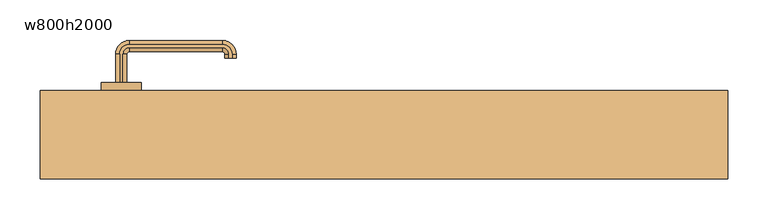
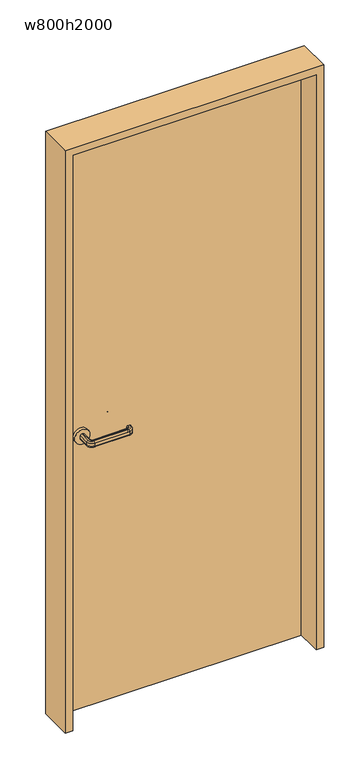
"""IFC4 building model written with IfcOpenShell, lengths in millimetres: door geometry, 片開き : w800h2000."""

from ifc_helpers import new_model, si_unit, point, frame, frame_2d, origin, origin_with_axes, place, context, project, spatial, polyline, circle_curve, ellipse_curve, trimmed, segment, composite_curve, outline, extrude, source, transform, mapped, element, save
from ifc_brep_helpers import plane_surface, cylinder_surface, revolved_surface, advanced_brep


def w800h2000_ceb0a9b1(model_context):
    return source(origin(), model_context, "Body", "SolidModel", [
        advanced_brep(
        [(-327.0, 65.0, 960.0), (-332.0, 65.0, 955.0), (-332.0, 65.0, 945.0477623), (-327.0, 65.0, 940.0477623), (-323.0, 65.0, 940.0477623), (-318.0, 65.0, 945.0477623), (-318.0, 65.0, 955.0), (-323.0, 65.0, 960.0), (-327.0, 100.0, 960.0), (-332.0, 100.0, 955.0), (-332.0, 100.0, 945.0477623), (-327.0, 100.0, 940.0477623), (-315.0, 112.0, 940.0477623), (-200.0, 112.0, 940.0477623), (-188.0, 100.0, 940.0477623), (-188.0, 95.0, 940.0477623), (-192.0, 95.0, 940.0477623), (-192.0, 100.0, 940.0477623), (-200.0, 108.0, 940.0477623), (-315.0, 108.0, 940.0477623), (-323.0, 100.0, 940.0477623), (-318.0, 100.0, 945.0477623), (-318.0, 100.0, 955.0), (-323.0, 100.0, 960.0), (-315.0, 108.0, 960.0), (-200.0, 108.0, 960.0), (-192.0, 100.0, 960.0), (-192.0, 95.0, 960.0), (-188.0, 95.0, 960.0), (-188.0, 100.0, 960.0), (-200.0, 112.0, 960.0), (-315.0, 112.0, 960.0), (-315.0, 117.0, 955.0), (-315.0, 117.0, 945.0477623), (-315.0, 103.0, 945.0477623), (-315.0, 103.0, 955.0), (-200.0, 117.0, 955.0), (-200.0, 117.0, 945.0477623), (-200.0, 103.0, 945.0477623), (-200.0, 103.0, 955.0), (-183.0, 100.0, 955.0), (-183.0, 100.0, 945.0477623), (-197.0, 100.0, 945.0477623), (-197.0, 100.0, 955.0), (-197.0, 95.0, 955.0), (-197.0, 95.0, 945.0477623), (-183.0, 95.0, 945.0477623), (-183.0, 95.0, 955.0)],
        [
            (0, 1, circle_curve(frame((-327.0, 65.0, 955.0), z_axis=(0.0, -1.0, 0.0), x_axis=(-1.0, 0.0, 0.0)), 5.0)),
            (1, 2),
            (2, 3, circle_curve(frame((-327.0, 65.0, 945.0477623), z_axis=(0.0, -1.0, 0.0), x_axis=(-1.0, 0.0, 0.0)), 5.0)),
            (3, 4),
            (4, 5, circle_curve(frame((-323.0, 65.0, 945.0477623), z_axis=(0.0, -1.0, 0.0), x_axis=(-1.0, 0.0, 0.0)), 5.0)),
            (5, 6),
            (6, 7, circle_curve(frame((-323.0, 65.0, 955.0), z_axis=(0.0, -1.0, 0.0), x_axis=(-1.0, 0.0, 0.0)), 5.0)),
            (7, 0),
            (0, 8),
            (8, 9, circle_curve(frame((-327.0, 100.0, 955.0), z_axis=(0.0, -1.0, 0.0), x_axis=(-1.0, 0.0, 0.0)), 5.0)),
            (9, 1),
            (9, 10),
            (10, 2),
            (10, 11, circle_curve(frame((-327.0, 100.0, 945.0477623), z_axis=(0.0, -1.0, 0.0), x_axis=(-1.0, 0.0, 0.0)), 5.0)),
            (11, 3),
            (11, 12, circle_curve(frame((-315.0, 100.0, 940.0477623), z_axis=(0.0, 0.0, -1.0), x_axis=(-1.0, 0.0, 0.0)), 12.0)),
            (12, 13),
            (13, 14, circle_curve(frame((-200.0, 100.0, 940.0477623), z_axis=(0.0, 0.0, -1.0), x_axis=(0.0, 1.0, 0.0)), 12.0)),
            (14, 15),
            (15, 16),
            (16, 17),
            (17, 18, circle_curve(frame((-200.0, 100.0, 940.0477623), z_axis=(0.0, 0.0, 1.0), x_axis=(0.0, 1.0, 0.0)), 8.0)),
            (18, 19),
            (19, 20, circle_curve(frame((-315.0, 100.0, 940.0477623), z_axis=(0.0, 0.0, 1.0), x_axis=(-1.0, 0.0, 0.0)), 8.0)),
            (20, 4),
            (20, 21, circle_curve(frame((-323.0, 100.0, 945.0477623), z_axis=(0.0, -1.0, 0.0), x_axis=(-1.0, 0.0, 0.0)), 5.0)),
            (21, 5),
            (21, 22),
            (22, 6),
            (22, 23, circle_curve(frame((-323.0, 100.0, 955.0), z_axis=(0.0, -1.0, 0.0), x_axis=(-1.0, 0.0, 0.0)), 5.0)),
            (23, 7),
            (23, 24, circle_curve(frame((-315.0, 100.0, 960.0), z_axis=(0.0, 0.0, -1.0), x_axis=(-1.0, 0.0, 0.0)), 8.0)),
            (24, 25),
            (25, 26, circle_curve(frame((-200.0, 100.0, 960.0), z_axis=(0.0, 0.0, -1.0), x_axis=(0.0, 1.0, 0.0)), 8.0)),
            (26, 27),
            (27, 28),
            (28, 29),
            (29, 30, circle_curve(frame((-200.0, 100.0, 960.0), z_axis=(0.0, 0.0, 1.0), x_axis=(0.0, 1.0, 0.0)), 12.0)),
            (30, 31),
            (31, 8, circle_curve(frame((-315.0, 100.0, 960.0), z_axis=(0.0, 0.0, 1.0), x_axis=(-1.0, 0.0, 0.0)), 12.0)),
            (32, 9, circle_curve(frame((-315.0, 100.0, 955.0), z_axis=(0.0, 0.0, 1.0), x_axis=(-1.0, 0.0, 0.0)), 17.0)),
            (31, 32, circle_curve(frame((-315.0, 112.0, 955.0), z_axis=(-1.0, 0.0, 0.0), x_axis=(0.0, 1.0, 0.0)), 5.0)),
            (33, 10, circle_curve(frame((-315.0, 100.0, 945.0477623), z_axis=(0.0, 0.0, 1.0), x_axis=(-1.0, 0.0, 0.0)), 17.0)),
            (32, 33),
            (33, 12, circle_curve(frame((-315.0, 112.0, 945.0477623), z_axis=(-1.0, 0.0, 0.0), x_axis=(0.0, 1.0, 0.0)), 5.0)),
            (34, 21, circle_curve(frame((-315.0, 100.0, 945.0477623), z_axis=(0.0, 0.0, 1.0), x_axis=(-1.0, 0.0, 0.0)), 3.0)),
            (19, 34, circle_curve(frame((-315.0, 108.0, 945.0477623), z_axis=(-1.0, 0.0, 0.0), x_axis=(0.0, 1.0, 0.0)), 5.0)),
            (35, 22, circle_curve(frame((-315.0, 100.0, 955.0), z_axis=(0.0, 0.0, 1.0), x_axis=(-1.0, 0.0, 0.0)), 3.0)),
            (34, 35),
            (35, 24, circle_curve(frame((-315.0, 108.0, 955.0), z_axis=(-1.0, 0.0, 0.0), x_axis=(0.0, 1.0, 0.0)), 5.0)),
            (30, 36, circle_curve(frame((-200.0, 112.0, 955.0), z_axis=(-1.0, 0.0, 0.0), x_axis=(0.0, 1.0, 0.0)), 5.0)),
            (36, 32),
            (36, 37),
            (37, 33),
            (37, 13, circle_curve(frame((-200.0, 112.0, 945.0477623), z_axis=(-1.0, 0.0, 0.0), x_axis=(0.0, 1.0, 0.0)), 5.0)),
            (18, 38, circle_curve(frame((-200.0, 108.0, 945.0477623), z_axis=(-1.0, 0.0, 0.0), x_axis=(0.0, 1.0, 0.0)), 5.0)),
            (38, 34),
            (38, 39),
            (39, 35),
            (39, 25, circle_curve(frame((-200.0, 108.0, 955.0), z_axis=(-1.0, 0.0, 0.0), x_axis=(0.0, 1.0, 0.0)), 5.0)),
            (40, 36, circle_curve(frame((-200.0, 100.0, 955.0), z_axis=(0.0, 0.0, 1.0), x_axis=(0.0, 1.0, 0.0)), 17.0)),
            (29, 40, circle_curve(frame((-188.0, 100.0, 955.0), z_axis=(0.0, 1.0, 0.0), x_axis=(1.0, 0.0, 0.0)), 5.0)),
            (41, 37, circle_curve(frame((-200.0, 100.0, 945.0477623), z_axis=(0.0, 0.0, 1.0), x_axis=(0.0, 1.0, 0.0)), 17.0)),
            (40, 41),
            (41, 14, circle_curve(frame((-188.0, 100.0, 945.0477623), z_axis=(0.0, 1.0, 0.0), x_axis=(1.0, 0.0, 0.0)), 5.0)),
            (42, 38, circle_curve(frame((-200.0, 100.0, 945.0477623), z_axis=(0.0, 0.0, 1.0), x_axis=(0.0, 1.0, 0.0)), 3.0)),
            (17, 42, circle_curve(frame((-192.0, 100.0, 945.0477623), z_axis=(0.0, 1.0, 0.0), x_axis=(1.0, 0.0, 0.0)), 5.0)),
            (43, 39, circle_curve(frame((-200.0, 100.0, 955.0), z_axis=(0.0, 0.0, 1.0), x_axis=(0.0, 1.0, 0.0)), 3.0)),
            (42, 43),
            (43, 26, circle_curve(frame((-192.0, 100.0, 955.0), z_axis=(0.0, 1.0, 0.0), x_axis=(1.0, 0.0, 0.0)), 5.0)),
            (27, 44, circle_curve(frame((-192.0, 95.0, 955.0), z_axis=(0.0, -1.0, 0.0), x_axis=(1.0, 0.0, 0.0)), 5.0)),
            (44, 45),
            (45, 16, circle_curve(frame((-192.0, 95.0, 945.0477623), z_axis=(0.0, -1.0, 0.0), x_axis=(1.0, 0.0, 0.0)), 5.0)),
            (15, 46, circle_curve(frame((-188.0, 95.0, 945.0477623), z_axis=(0.0, -1.0, 0.0), x_axis=(1.0, 0.0, 0.0)), 5.0)),
            (46, 47),
            (47, 28, circle_curve(frame((-188.0, 95.0, 955.0), z_axis=(0.0, -1.0, 0.0), x_axis=(1.0, 0.0, 0.0)), 5.0)),
            (47, 40),
            (46, 41),
            (45, 42),
            (44, 43),
        ],
        [
            plane_surface(frame((-335.198039, 65.0, 950.0), z_axis=(0.0, -1.0, 0.0), x_axis=(0.0, 0.0, 1.0))),
            cylinder_surface(frame((-327.0, 65.0, 955.0), z_axis=(0.0, -1.0, 0.0), x_axis=(-1.0, 0.0, 0.0)), 5.0),
            plane_surface(frame((-332.0, 65.0, 955.0), z_axis=(-1.0, 0.0, 0.0), x_axis=(0.0, 1.0, 0.0))),
            cylinder_surface(frame((-327.0, 65.0, 945.0477623), z_axis=(0.0, -1.0, 0.0), x_axis=(-1.0, 0.0, 0.0)), 5.0),
            plane_surface(frame((-327.0, 65.0, 940.0477623), z_axis=(0.0, 0.0, -1.0), x_axis=(0.0, 1.0, 0.0))),
            cylinder_surface(frame((-323.0, 65.0, 945.0477623), z_axis=(0.0, -1.0, 0.0), x_axis=(-1.0, 0.0, 0.0)), 5.0),
            plane_surface(frame((-318.0, 65.0, 945.0477623), z_axis=(1.0, 0.0, 0.0), x_axis=(0.0, 1.0, 0.0))),
            cylinder_surface(frame((-323.0, 65.0, 955.0), z_axis=(0.0, -1.0, 0.0), x_axis=(-1.0, 0.0, 0.0)), 5.0),
            plane_surface(frame((-323.0, 65.0, 960.0), z_axis=(0.0, 0.0, 1.0), x_axis=(0.0, 1.0, 0.0))),
            revolved_surface(trimmed(ellipse_curve(frame((-327.0, 100.0, 955.0), z_axis=(0.0, -1.0, 0.0), x_axis=(-1.0, 0.0, 0.0)), 5.0, 5.0), [point((-327.0, 100.0, 960.0))], [point((-332.0, 100.0, 955.0))], True, "CARTESIAN"), (-315.0, 100.0, 950.0), (0.0, 0.0, -1.0)),
            cylinder_surface(frame((-315.0, 100.0, 950.0), z_axis=(0.0, 0.0, -1.0), x_axis=(-1.0, 0.0, 0.0)), 17.0),
            revolved_surface(trimmed(ellipse_curve(frame((-327.0, 100.0, 945.0477623), z_axis=(0.0, -1.0, 0.0), x_axis=(-1.0, 0.0, 0.0)), 5.0, 5.0), [point((-332.0, 100.0, 945.0477623))], [point((-327.0, 100.0, 940.0477623))], True, "CARTESIAN"), (-315.0, 100.0, 950.0), (0.0, 0.0, -1.0)),
            revolved_surface(trimmed(ellipse_curve(frame((-323.0, 100.0, 945.0477623), z_axis=(0.0, -1.0, 0.0), x_axis=(-1.0, 0.0, 0.0)), 5.0, 5.0), [point((-323.0, 100.0, 940.0477623))], [point((-318.0, 100.0, 945.0477623))], True, "CARTESIAN"), (-315.0, 100.0, 950.0), (0.0, 0.0, -1.0)),
            revolved_surface(polyline([(-318.0, 100.0, 945.0477623), (-318.0, 100.0, 955.0)]), (-315.0, 100.0, 950.0), (0.0, 0.0, -1.0)),
            revolved_surface(trimmed(ellipse_curve(frame((-323.0, 100.0, 955.0), z_axis=(0.0, -1.0, 0.0), x_axis=(-1.0, 0.0, 0.0)), 5.0, 5.0), [point((-318.0, 100.0, 955.0))], [point((-323.0, 100.0, 960.0))], True, "CARTESIAN"), (-315.0, 100.0, 950.0), (0.0, 0.0, -1.0)),
            cylinder_surface(frame((-315.0, 112.0, 955.0), z_axis=(-1.0, 0.0, 0.0), x_axis=(0.0, 1.0, 0.0)), 5.0),
            plane_surface(frame((-315.0, 117.0, 955.0), z_axis=(0.0, 1.0, 0.0), x_axis=(1.0, 0.0, 0.0))),
            cylinder_surface(frame((-315.0, 112.0, 945.0477623), z_axis=(-1.0, 0.0, 0.0), x_axis=(0.0, 1.0, 0.0)), 5.0),
            cylinder_surface(frame((-315.0, 108.0, 945.0477623), z_axis=(-1.0, 0.0, 0.0), x_axis=(0.0, 1.0, 0.0)), 5.0),
            plane_surface(frame((-315.0, 103.0, 945.0477623), z_axis=(0.0, -1.0, 0.0), x_axis=(1.0, 0.0, 0.0))),
            cylinder_surface(frame((-315.0, 108.0, 955.0), z_axis=(-1.0, 0.0, 0.0), x_axis=(0.0, 1.0, 0.0)), 5.0),
            revolved_surface(trimmed(ellipse_curve(frame((-200.0, 112.0, 955.0), z_axis=(-1.0, 0.0, 0.0), x_axis=(0.0, 1.0, 0.0)), 5.0, 5.0), [point((-200.0, 112.0, 960.0))], [point((-200.0, 117.0, 955.0))], True, "CARTESIAN"), (-200.0, 100.0, 950.0), (0.0, 0.0, -1.0)),
            cylinder_surface(frame((-200.0, 100.0, 950.0), z_axis=(0.0, 0.0, -1.0), x_axis=(0.0, 1.0, 0.0)), 17.0),
            revolved_surface(trimmed(ellipse_curve(frame((-200.0, 112.0, 945.0477623), z_axis=(-1.0, 0.0, 0.0), x_axis=(0.0, 1.0, 0.0)), 5.0, 5.0), [point((-200.0, 117.0, 945.0477623))], [point((-200.0, 112.0, 940.0477623))], True, "CARTESIAN"), (-200.0, 100.0, 950.0), (0.0, 0.0, -1.0)),
            revolved_surface(trimmed(ellipse_curve(frame((-200.0, 108.0, 945.0477623), z_axis=(-1.0, 0.0, 0.0), x_axis=(0.0, 1.0, 0.0)), 5.0, 5.0), [point((-200.0, 108.0, 940.0477623))], [point((-200.0, 103.0, 945.0477623))], True, "CARTESIAN"), (-200.0, 100.0, 950.0), (0.0, 0.0, -1.0)),
            revolved_surface(polyline([(-200.0, 103.0, 945.0477623), (-200.0, 103.0, 955.0)]), (-200.0, 100.0, 950.0), (0.0, 0.0, -1.0)),
            revolved_surface(trimmed(ellipse_curve(frame((-200.0, 108.0, 955.0), z_axis=(-1.0, 0.0, 0.0), x_axis=(0.0, 1.0, 0.0)), 5.0, 5.0), [point((-200.0, 103.0, 955.0))], [point((-200.0, 108.0, 960.0))], True, "CARTESIAN"), (-200.0, 100.0, 950.0), (0.0, 0.0, -1.0)),
            plane_surface(frame((-200.198039, 95.0, 950.0), z_axis=(0.0, -1.0, 0.0), x_axis=(0.0, 0.0, -1.0))),
            cylinder_surface(frame((-188.0, 100.0, 955.0), z_axis=(0.0, 1.0, 0.0), x_axis=(1.0, 0.0, 0.0)), 5.0),
            plane_surface(frame((-183.0, 100.0, 955.0), z_axis=(1.0, 0.0, 0.0), x_axis=(0.0, -1.0, 0.0))),
            cylinder_surface(frame((-188.0, 100.0, 945.0477623), z_axis=(0.0, 1.0, 0.0), x_axis=(1.0, 0.0, 0.0)), 5.0),
            cylinder_surface(frame((-192.0, 100.0, 945.0477623), z_axis=(0.0, 1.0, 0.0), x_axis=(1.0, 0.0, 0.0)), 5.0),
            plane_surface(frame((-197.0, 100.0, 945.0477623), z_axis=(-1.0, 0.0, 0.0), x_axis=(0.0, -1.0, 0.0))),
            cylinder_surface(frame((-192.0, 100.0, 955.0), z_axis=(0.0, 1.0, 0.0), x_axis=(1.0, 0.0, 0.0)), 5.0),
        ],
        [
            (0, [[1, 2, 3, 4, 5, 6, 7, 8]]),
            (1, [[-1, 9, 10, 11]]),
            (2, [[-2, -11, 12, 13]]),
            (3, [[-3, -13, 14, 15]]),
            (4, [[-4, -15, 16, 17, 18, 19, 20, 21, 22, 23, 24, 25]]),
            (5, [[-5, -25, 26, 27]]),
            (6, [[-6, -27, 28, 29]]),
            (7, [[-7, -29, 30, 31]]),
            (8, [[-8, -31, 32, 33, 34, 35, 36, 37, 38, 39, 40, -9]]),
            (9, [[41, -10, -40, 42]]),
            (10, [[43, -12, -41, 44]]),
            (11, [[-16, -14, -43, 45]]),
            (12, [[46, -26, -24, 47]]),
            (13, [[48, -28, -46, 49]]),
            (14, [[-32, -30, -48, 50]]),
            (15, [[-42, -39, 51, 52]]),
            (16, [[-44, -52, 53, 54]]),
            (17, [[-45, -54, 55, -17]]),
            (18, [[-47, -23, 56, 57]]),
            (19, [[-49, -57, 58, 59]]),
            (20, [[-50, -59, 60, -33]]),
            (21, [[61, -51, -38, 62]]),
            (22, [[63, -53, -61, 64]]),
            (23, [[-18, -55, -63, 65]]),
            (24, [[66, -56, -22, 67]]),
            (25, [[68, -58, -66, 69]]),
            (26, [[-34, -60, -68, 70]]),
            (27, [[-36, 71, 72, 73, -20, 74, 75, 76]]),
            (28, [[-62, -37, -76, 77]]),
            (29, [[-64, -77, -75, 78]]),
            (30, [[-65, -78, -74, -19]]),
            (31, [[-67, -21, -73, 79]]),
            (32, [[-69, -79, -72, 80]]),
            (33, [[-70, -80, -71, -35]]),
        ],
    ),
        advanced_brep(
        [(-323.0, 20.0, 940.0), (-327.0, 20.0, 940.0), (-332.0, 20.0, 945.0), (-332.0, 20.0, 955.0), (-327.0, 20.0, 960.0), (-323.0, 20.0, 960.0), (-318.0, 20.0, 955.0), (-318.0, 20.0, 945.0), (-323.0, -15.0, 940.0), (-315.0, -23.0, 940.0), (-200.0, -23.0, 940.0), (-192.0, -15.0, 940.0), (-192.0, -10.0, 940.0), (-188.0, -10.0, 940.0), (-188.0, -15.0, 940.0), (-200.0, -27.0, 940.0), (-315.0, -27.0, 940.0), (-327.0, -15.0, 940.0), (-332.0, -15.0, 945.0), (-332.0, -15.0, 955.0), (-327.0, -15.0, 960.0), (-315.0, -27.0, 960.0), (-200.0, -27.0, 960.0), (-188.0, -15.0, 960.0), (-188.0, -10.0, 960.0), (-192.0, -10.0, 960.0), (-192.0, -15.0, 960.0), (-200.0, -23.0, 960.0), (-315.0, -23.0, 960.0), (-323.0, -15.0, 960.0), (-318.0, -15.0, 955.0), (-318.0, -15.0, 945.0), (-315.0, -32.0, 945.0), (-315.0, -32.0, 955.0), (-315.0, -18.0, 955.0), (-315.0, -18.0, 945.0), (-200.0, -32.0, 945.0), (-200.0, -32.0, 955.0), (-200.0, -18.0, 955.0), (-200.0, -18.0, 945.0), (-183.0, -15.0, 945.0), (-183.0, -15.0, 955.0), (-197.0, -15.0, 955.0), (-197.0, -15.0, 945.0), (-197.0, -10.0, 945.0), (-197.0, -10.0, 955.0), (-183.0, -10.0, 955.0), (-183.0, -10.0, 945.0)],
        [
            (0, 1),
            (1, 2, circle_curve(frame((-327.0, 20.0, 945.0), z_axis=(0.0, 1.0, 0.0), x_axis=(1.0, 0.0, 0.0)), 5.0)),
            (2, 3),
            (3, 4, circle_curve(frame((-327.0, 20.0, 955.0), z_axis=(0.0, 1.0, 0.0), x_axis=(1.0, 0.0, 0.0)), 5.0)),
            (4, 5),
            (5, 6, circle_curve(frame((-323.0, 20.0, 955.0), z_axis=(0.0, 1.0, 0.0), x_axis=(1.0, 0.0, 0.0)), 5.0)),
            (6, 7),
            (7, 0, circle_curve(frame((-323.0, 20.0, 945.0), z_axis=(0.0, 1.0, 0.0), x_axis=(1.0, 0.0, 0.0)), 5.0)),
            (0, 8),
            (8, 9, circle_curve(frame((-315.0, -15.0, 940.0), z_axis=(0.0, 0.0, 1.0), x_axis=(-1.0, 0.0, 0.0)), 8.0)),
            (9, 10),
            (10, 11, circle_curve(frame((-200.0, -15.0, 940.0), z_axis=(0.0, 0.0, 1.0), x_axis=(0.0, -1.0, 0.0)), 8.0)),
            (11, 12),
            (12, 13),
            (13, 14),
            (14, 15, circle_curve(frame((-200.0, -15.0, 940.0), z_axis=(0.0, 0.0, -1.0), x_axis=(0.0, -1.0, 0.0)), 12.0)),
            (15, 16),
            (16, 17, circle_curve(frame((-315.0, -15.0, 940.0), z_axis=(0.0, 0.0, -1.0), x_axis=(-1.0, 0.0, 0.0)), 12.0)),
            (17, 1),
            (17, 18, circle_curve(frame((-327.0, -15.0, 945.0), z_axis=(0.0, 1.0, 0.0), x_axis=(1.0, 0.0, 0.0)), 5.0)),
            (18, 2),
            (18, 19),
            (19, 3),
            (19, 20, circle_curve(frame((-327.0, -15.0, 955.0), z_axis=(0.0, 1.0, 0.0), x_axis=(1.0, 0.0, 0.0)), 5.0)),
            (20, 4),
            (20, 21, circle_curve(frame((-315.0, -15.0, 960.0), z_axis=(0.0, 0.0, 1.0), x_axis=(-1.0, 0.0, 0.0)), 12.0)),
            (21, 22),
            (22, 23, circle_curve(frame((-200.0, -15.0, 960.0), z_axis=(0.0, 0.0, 1.0), x_axis=(0.0, -1.0, 0.0)), 12.0)),
            (23, 24),
            (24, 25),
            (25, 26),
            (26, 27, circle_curve(frame((-200.0, -15.0, 960.0), z_axis=(0.0, 0.0, -1.0), x_axis=(0.0, -1.0, 0.0)), 8.0)),
            (27, 28),
            (28, 29, circle_curve(frame((-315.0, -15.0, 960.0), z_axis=(0.0, 0.0, -1.0), x_axis=(-1.0, 0.0, 0.0)), 8.0)),
            (29, 5),
            (29, 30, circle_curve(frame((-323.0, -15.0, 955.0), z_axis=(0.0, 1.0, 0.0), x_axis=(1.0, 0.0, 0.0)), 5.0)),
            (30, 6),
            (30, 31),
            (31, 7),
            (31, 8, circle_curve(frame((-323.0, -15.0, 945.0), z_axis=(0.0, 1.0, 0.0), x_axis=(1.0, 0.0, 0.0)), 5.0)),
            (32, 18, circle_curve(frame((-315.0, -15.0, 945.0), z_axis=(0.0, 0.0, -1.0), x_axis=(-1.0, 0.0, 0.0)), 17.0)),
            (16, 32, circle_curve(frame((-315.0, -27.0, 945.0), z_axis=(-1.0, 0.0, 0.0), x_axis=(0.0, 1.0, 0.0)), 5.0)),
            (33, 19, circle_curve(frame((-315.0, -15.0, 955.0), z_axis=(0.0, 0.0, -1.0), x_axis=(-1.0, 0.0, 0.0)), 17.0)),
            (32, 33),
            (33, 21, circle_curve(frame((-315.0, -27.0, 955.0), z_axis=(-1.0, 0.0, 0.0), x_axis=(0.0, 1.0, 0.0)), 5.0)),
            (34, 30, circle_curve(frame((-315.0, -15.0, 955.0), z_axis=(0.0, 0.0, -1.0), x_axis=(-1.0, 0.0, 0.0)), 3.0)),
            (28, 34, circle_curve(frame((-315.0, -23.0, 955.0), z_axis=(-1.0, 0.0, 0.0), x_axis=(0.0, 1.0, 0.0)), 5.0)),
            (35, 31, circle_curve(frame((-315.0, -15.0, 945.0), z_axis=(0.0, 0.0, -1.0), x_axis=(-1.0, 0.0, 0.0)), 3.0)),
            (34, 35),
            (35, 9, circle_curve(frame((-315.0, -23.0, 945.0), z_axis=(-1.0, 0.0, 0.0), x_axis=(0.0, 1.0, 0.0)), 5.0)),
            (15, 36, circle_curve(frame((-200.0, -27.0, 945.0), z_axis=(-1.0, 0.0, 0.0), x_axis=(0.0, 1.0, 0.0)), 5.0)),
            (36, 32),
            (36, 37),
            (37, 33),
            (37, 22, circle_curve(frame((-200.0, -27.0, 955.0), z_axis=(-1.0, 0.0, 0.0), x_axis=(0.0, 1.0, 0.0)), 5.0)),
            (27, 38, circle_curve(frame((-200.0, -23.0, 955.0), z_axis=(-1.0, 0.0, 0.0), x_axis=(0.0, 1.0, 0.0)), 5.0)),
            (38, 34),
            (38, 39),
            (39, 35),
            (39, 10, circle_curve(frame((-200.0, -23.0, 945.0), z_axis=(-1.0, 0.0, 0.0), x_axis=(0.0, 1.0, 0.0)), 5.0)),
            (40, 36, circle_curve(frame((-200.0, -15.0, 945.0), z_axis=(0.0, 0.0, -1.0), x_axis=(0.0, -1.0, 0.0)), 17.0)),
            (14, 40, circle_curve(frame((-188.0, -15.0, 945.0), z_axis=(0.0, -1.0, 0.0), x_axis=(-1.0, 0.0, 0.0)), 5.0)),
            (41, 37, circle_curve(frame((-200.0, -15.0, 955.0), z_axis=(0.0, 0.0, -1.0), x_axis=(0.0, -1.0, 0.0)), 17.0)),
            (40, 41),
            (41, 23, circle_curve(frame((-188.0, -15.0, 955.0), z_axis=(0.0, -1.0, 0.0), x_axis=(-1.0, 0.0, 0.0)), 5.0)),
            (42, 38, circle_curve(frame((-200.0, -15.0, 955.0), z_axis=(0.0, 0.0, -1.0), x_axis=(0.0, -1.0, 0.0)), 3.0)),
            (26, 42, circle_curve(frame((-192.0, -15.0, 955.0), z_axis=(0.0, -1.0, 0.0), x_axis=(-1.0, 0.0, 0.0)), 5.0)),
            (43, 39, circle_curve(frame((-200.0, -15.0, 945.0), z_axis=(0.0, 0.0, -1.0), x_axis=(0.0, -1.0, 0.0)), 3.0)),
            (42, 43),
            (43, 11, circle_curve(frame((-192.0, -15.0, 945.0), z_axis=(0.0, -1.0, 0.0), x_axis=(-1.0, 0.0, 0.0)), 5.0)),
            (12, 44, circle_curve(frame((-192.0, -10.0, 945.0), z_axis=(0.0, 1.0, 0.0), x_axis=(-1.0, 0.0, 0.0)), 5.0)),
            (44, 45),
            (45, 25, circle_curve(frame((-192.0, -10.0, 955.0), z_axis=(0.0, 1.0, 0.0), x_axis=(-1.0, 0.0, 0.0)), 5.0)),
            (24, 46, circle_curve(frame((-188.0, -10.0, 955.0), z_axis=(0.0, 1.0, 0.0), x_axis=(-1.0, 0.0, 0.0)), 5.0)),
            (46, 47),
            (47, 13, circle_curve(frame((-188.0, -10.0, 945.0), z_axis=(0.0, 1.0, 0.0), x_axis=(-1.0, 0.0, 0.0)), 5.0)),
            (47, 40),
            (46, 41),
            (45, 42),
            (44, 43),
        ],
        [
            plane_surface(frame((-335.198039, 20.0, 950.0), z_axis=(0.0, 1.0, 0.0), x_axis=(0.0, 0.0, -1.0))),
            plane_surface(frame((-323.0, 20.0, 940.0), z_axis=(0.0, 0.0, -1.0), x_axis=(0.0, -1.0, 0.0))),
            cylinder_surface(frame((-327.0, 20.0, 945.0), z_axis=(0.0, 1.0, 0.0), x_axis=(1.0, 0.0, 0.0)), 5.0),
            plane_surface(frame((-332.0, 20.0, 945.0), z_axis=(-1.0, 0.0, 0.0), x_axis=(0.0, -1.0, 0.0))),
            cylinder_surface(frame((-327.0, 20.0, 955.0), z_axis=(0.0, 1.0, 0.0), x_axis=(1.0, 0.0, 0.0)), 5.0),
            plane_surface(frame((-327.0, 20.0, 960.0), z_axis=(0.0, 0.0, 1.0), x_axis=(0.0, -1.0, 0.0))),
            cylinder_surface(frame((-323.0, 20.0, 955.0), z_axis=(0.0, 1.0, 0.0), x_axis=(1.0, 0.0, 0.0)), 5.0),
            plane_surface(frame((-318.0, 20.0, 955.0), z_axis=(1.0, 0.0, 0.0), x_axis=(0.0, -1.0, 0.0))),
            cylinder_surface(frame((-323.0, 20.0, 945.0), z_axis=(0.0, 1.0, 0.0), x_axis=(1.0, 0.0, 0.0)), 5.0),
            revolved_surface(trimmed(ellipse_curve(frame((-327.0, -15.0, 945.0), z_axis=(0.0, 1.0, 0.0), x_axis=(1.0, 0.0, 0.0)), 5.0, 5.0), [point((-327.0, -15.0, 940.0))], [point((-332.0, -15.0, 945.0))], True, "CARTESIAN"), (-315.0, -15.0, 950.0), (0.0, 0.0, 1.0)),
            cylinder_surface(frame((-315.0, -15.0, 950.0), z_axis=(0.0, 0.0, 1.0), x_axis=(-1.0, 0.0, 0.0)), 17.0),
            revolved_surface(trimmed(ellipse_curve(frame((-327.0, -15.0, 955.0), z_axis=(0.0, 1.0, 0.0), x_axis=(1.0, 0.0, 0.0)), 5.0, 5.0), [point((-332.0, -15.0, 955.0))], [point((-327.0, -15.0, 960.0))], True, "CARTESIAN"), (-315.0, -15.0, 950.0), (0.0, 0.0, 1.0)),
            revolved_surface(trimmed(ellipse_curve(frame((-323.0, -15.0, 955.0), z_axis=(0.0, 1.0, 0.0), x_axis=(1.0, 0.0, 0.0)), 5.0, 5.0), [point((-323.0, -15.0, 960.0))], [point((-318.0, -15.0, 955.0))], True, "CARTESIAN"), (-315.0, -15.0, 950.0), (0.0, 0.0, 1.0)),
            revolved_surface(polyline([(-318.0, -15.0, 955.0), (-318.0, -15.0, 945.0)]), (-315.0, -15.0, 950.0), (0.0, 0.0, 1.0)),
            revolved_surface(trimmed(ellipse_curve(frame((-323.0, -15.0, 945.0), z_axis=(0.0, 1.0, 0.0), x_axis=(1.0, 0.0, 0.0)), 5.0, 5.0), [point((-318.0, -15.0, 945.0))], [point((-323.0, -15.0, 940.0))], True, "CARTESIAN"), (-315.0, -15.0, 950.0), (0.0, 0.0, 1.0)),
            cylinder_surface(frame((-315.0, -27.0, 945.0), z_axis=(-1.0, 0.0, 0.0), x_axis=(0.0, 1.0, 0.0)), 5.0),
            plane_surface(frame((-315.0, -32.0, 945.0), z_axis=(0.0, -1.0, 0.0), x_axis=(1.0, 0.0, 0.0))),
            cylinder_surface(frame((-315.0, -27.0, 955.0), z_axis=(-1.0, 0.0, 0.0), x_axis=(0.0, 1.0, 0.0)), 5.0),
            cylinder_surface(frame((-315.0, -23.0, 955.0), z_axis=(-1.0, 0.0, 0.0), x_axis=(0.0, 1.0, 0.0)), 5.0),
            plane_surface(frame((-315.0, -18.0, 955.0), z_axis=(0.0, 1.0, 0.0), x_axis=(1.0, 0.0, 0.0))),
            cylinder_surface(frame((-315.0, -23.0, 945.0), z_axis=(-1.0, 0.0, 0.0), x_axis=(0.0, 1.0, 0.0)), 5.0),
            revolved_surface(trimmed(ellipse_curve(frame((-200.0, -27.0, 945.0), z_axis=(-1.0, 0.0, 0.0), x_axis=(0.0, 1.0, 0.0)), 5.0, 5.0), [point((-200.0, -27.0, 940.0))], [point((-200.0, -32.0, 945.0))], True, "CARTESIAN"), (-200.0, -15.0, 950.0), (0.0, 0.0, 1.0)),
            cylinder_surface(frame((-200.0, -15.0, 950.0), z_axis=(0.0, 0.0, 1.0), x_axis=(0.0, -1.0, 0.0)), 17.0),
            revolved_surface(trimmed(ellipse_curve(frame((-200.0, -27.0, 955.0), z_axis=(-1.0, 0.0, 0.0), x_axis=(0.0, 1.0, 0.0)), 5.0, 5.0), [point((-200.0, -32.0, 955.0))], [point((-200.0, -27.0, 960.0))], True, "CARTESIAN"), (-200.0, -15.0, 950.0), (0.0, 0.0, 1.0)),
            revolved_surface(trimmed(ellipse_curve(frame((-200.0, -23.0, 955.0), z_axis=(-1.0, 0.0, 0.0), x_axis=(0.0, 1.0, 0.0)), 5.0, 5.0), [point((-200.0, -23.0, 960.0))], [point((-200.0, -18.0, 955.0))], True, "CARTESIAN"), (-200.0, -15.0, 950.0), (0.0, 0.0, 1.0)),
            revolved_surface(polyline([(-200.0, -18.0, 955.0), (-200.0, -18.0, 945.0)]), (-200.0, -15.0, 950.0), (0.0, 0.0, 1.0)),
            revolved_surface(trimmed(ellipse_curve(frame((-200.0, -23.0, 945.0), z_axis=(-1.0, 0.0, 0.0), x_axis=(0.0, 1.0, 0.0)), 5.0, 5.0), [point((-200.0, -18.0, 945.0))], [point((-200.0, -23.0, 940.0))], True, "CARTESIAN"), (-200.0, -15.0, 950.0), (0.0, 0.0, 1.0)),
            plane_surface(frame((-200.198039, -10.0, 950.0), z_axis=(0.0, 1.0, 0.0), x_axis=(0.0, 0.0, 1.0))),
            cylinder_surface(frame((-188.0, -15.0, 945.0), z_axis=(0.0, -1.0, 0.0), x_axis=(-1.0, 0.0, 0.0)), 5.0),
            plane_surface(frame((-183.0, -15.0, 945.0), z_axis=(1.0, 0.0, 0.0), x_axis=(0.0, 1.0, 0.0))),
            cylinder_surface(frame((-188.0, -15.0, 955.0), z_axis=(0.0, -1.0, 0.0), x_axis=(-1.0, 0.0, 0.0)), 5.0),
            cylinder_surface(frame((-192.0, -15.0, 955.0), z_axis=(0.0, -1.0, 0.0), x_axis=(-1.0, 0.0, 0.0)), 5.0),
            plane_surface(frame((-197.0, -15.0, 955.0), z_axis=(-1.0, 0.0, 0.0), x_axis=(0.0, 1.0, 0.0))),
            cylinder_surface(frame((-192.0, -15.0, 945.0), z_axis=(0.0, -1.0, 0.0), x_axis=(-1.0, 0.0, 0.0)), 5.0),
        ],
        [
            (0, [[1, 2, 3, 4, 5, 6, 7, 8]]),
            (1, [[-1, 9, 10, 11, 12, 13, 14, 15, 16, 17, 18, 19]]),
            (2, [[-2, -19, 20, 21]]),
            (3, [[-3, -21, 22, 23]]),
            (4, [[-4, -23, 24, 25]]),
            (5, [[-5, -25, 26, 27, 28, 29, 30, 31, 32, 33, 34, 35]]),
            (6, [[-6, -35, 36, 37]]),
            (7, [[-7, -37, 38, 39]]),
            (8, [[-8, -39, 40, -9]]),
            (9, [[41, -20, -18, 42]]),
            (10, [[43, -22, -41, 44]]),
            (11, [[-26, -24, -43, 45]]),
            (12, [[46, -36, -34, 47]]),
            (13, [[48, -38, -46, 49]]),
            (14, [[-10, -40, -48, 50]]),
            (15, [[-42, -17, 51, 52]]),
            (16, [[-44, -52, 53, 54]]),
            (17, [[-45, -54, 55, -27]]),
            (18, [[-47, -33, 56, 57]]),
            (19, [[-49, -57, 58, 59]]),
            (20, [[-50, -59, 60, -11]]),
            (21, [[61, -51, -16, 62]]),
            (22, [[63, -53, -61, 64]]),
            (23, [[-28, -55, -63, 65]]),
            (24, [[66, -56, -32, 67]]),
            (25, [[68, -58, -66, 69]]),
            (26, [[-12, -60, -68, 70]]),
            (27, [[71, 72, 73, -30, 74, 75, 76, -14]]),
            (28, [[-62, -15, -76, 77]]),
            (29, [[-64, -77, -75, 78]]),
            (30, [[-65, -78, -74, -29]]),
            (31, [[-67, -31, -73, 79]]),
            (32, [[-69, -79, -72, 80]]),
            (33, [[-70, -80, -71, -13]]),
        ],
    ),
        extrude(outline(composite_curve([segment(trimmed(circle_curve(frame_2d((950.0, -325.0)), 25.0), [point((950.0, -350.0))], [point((950.0, -300.0))], False, "CARTESIAN"), True, "CONTINUOUS"), segment(trimmed(circle_curve(frame_2d((950.0, -325.0)), 25.0), [point((950.0, -300.0))], [point((950.0, -350.0))], False, "CARTESIAN"), True, "CONTINUOUS")], self_intersect=False)), frame((0.0, 55.0, 0.0), z_axis=(0.0, 1.0, 0.0), x_axis=(0.0, 0.0, 1.0)), (0.0, 0.0, 1.0), 10.0),
        extrude(outline(composite_curve([segment(trimmed(circle_curve(frame_2d((950.0, -325.0)), 25.0), [point((950.0, -350.0))], [point((950.0, -300.0))], False, "CARTESIAN"), True, "CONTINUOUS"), segment(trimmed(circle_curve(frame_2d((950.0, -325.0)), 25.0), [point((950.0, -300.0))], [point((950.0, -350.0))], False, "CARTESIAN"), True, "CONTINUOUS")], self_intersect=False)), frame((0.0, 20.0, 0.0), z_axis=(0.0, 1.0, 0.0), x_axis=(0.0, 0.0, 1.0)), (0.0, 0.0, 1.0), 10.0),
        extrude(outline(polyline([(400.0, 30.0), (-400.0, 30.0), (-400.0, 55.0), (400.0, 55.0), (400.0, 30.0)])), origin_with_axes(), (0.0, 0.0, 1.0), 2000.0),
        extrude(outline(polyline([(2025.0, -425.0), (0.0, -425.0), (0.0, -400.0), (2000.0, -400.0), (2000.0, 400.0), (0.0, 400.0), (0.0, 425.0), (2025.0, 425.0), (2025.0, -425.0)])), frame((0.0, -55.0, 0.0), z_axis=(0.0, 1.0, 0.0), x_axis=(0.0, 0.0, 1.0)), (0.0, 0.0, 1.0), 110.0),
    ])


if __name__ == "__main__":
    model = new_model("IFC4")
    model_context = context("Model", 3, world=origin())
    ifc_project = project(units=[si_unit("LENGTHUNIT", "METRE", prefix="MILLI")], contexts=[model_context])
    site = spatial("IfcSite", under=ifc_project)
    building = spatial("IfcBuilding", under=site)
    placement = place(None, origin())
    w800h2000_shape = w800h2000_ceb0a9b1(model_context)
    element("IfcDoor", 1, ObjectType="片開き : w800h2000", at=placement, inside=building, context=model_context, shape_type="MappedRepresentation", body=[
        mapped(w800h2000_shape, transform((0.0, 0.0, 0.0), x_axis=(1.0, 0.0, 0.0), y_axis=(0.0, 1.0, 0.0), z_axis=(0.0, 0.0, 1.0))),
    ])
    save(model, "model.ifc")
